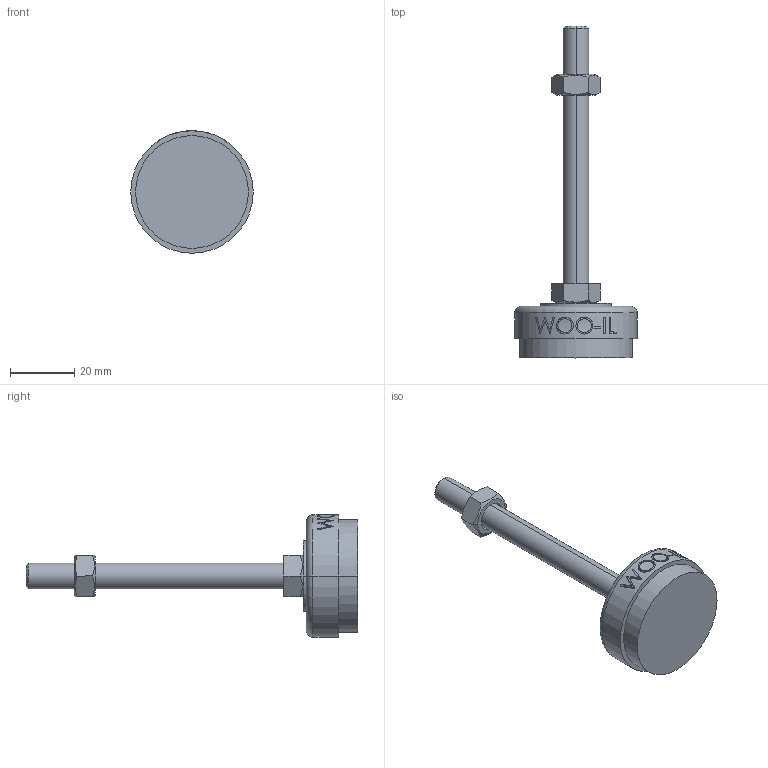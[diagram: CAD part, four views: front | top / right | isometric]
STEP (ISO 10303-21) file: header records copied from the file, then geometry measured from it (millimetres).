
FILE_DESCRIPTION (( 'STEP AP214' ), '1' );
FILE_NAME ('NS38-M8-80.STEP', '2021-03-29T00:34:15', ( '' ), ( '' ), 'SwSTEP 2.0', 'SolidWorks 2019', '' );
FILE_SCHEMA (( 'AUTOMOTIVE_DESIGN' ));
Length unit declared in the file: millimetre
Products named in the file (1): NS38-M8-80
Bounding box: 38 x 103 x 38 mm (x, y, z)
Volume: 22872.5 mm3; surface area: 7258.4 mm2
Topology: 3 solids, 3 shells, 96 faces, 223 edges, 144 vertices
Faces by surface type: plane 48, cylinder 18, bspline 16, cone 12, torus 2
Entity records: 4189 total; most frequent: CARTESIAN_POINT 2078, ORIENTED_EDGE 446, DIRECTION 379, EDGE_CURVE 223, VERTEX_POINT 144, AXIS2_PLACEMENT_3D 141, EDGE_LOOP 109, LINE 97
